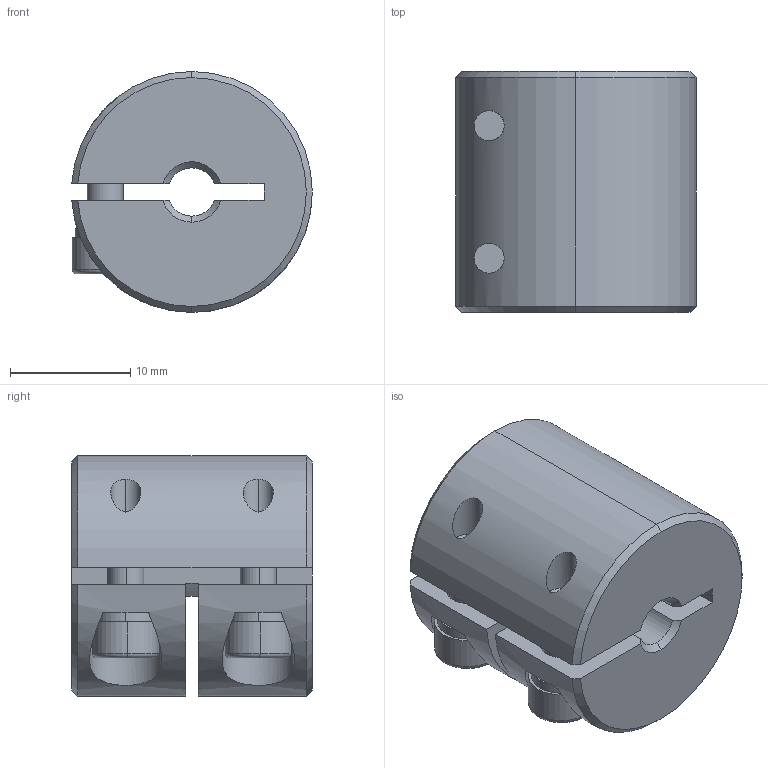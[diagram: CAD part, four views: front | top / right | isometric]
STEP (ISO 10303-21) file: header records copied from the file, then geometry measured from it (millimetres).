
FILE_DESCRIPTION (( 'STEP AP203' ), '1' );
FILE_NAME ('LL-B-D20L20-4-7.STEP', '2021-11-03T05:15:45', ( '' ), ( '' ), 'SwSTEP 2.0', 'SolidWorks 2018', '' );
FILE_SCHEMA (( 'CONFIG_CONTROL_DESIGN' ));
Length unit declared in the file: millimetre
Products named in the file (1): LL-B-D20L20-4-7
Bounding box: 19.98 x 20 x 20 mm (x, y, z)
Volume: 5241.6 mm3; surface area: 3132.6 mm2
Topology: 1 solids, 1 shells, 115 faces, 298 edges, 187 vertices
Faces by surface type: plane 53, cylinder 42, cone 16, torus 4
Entity records: 3764 total; most frequent: CARTESIAN_POINT 831, DIRECTION 625, ORIENTED_EDGE 588, EDGE_CURVE 294, AXIS2_PLACEMENT_3D 241, VERTEX_POINT 187, VECTOR 143, LINE 143
